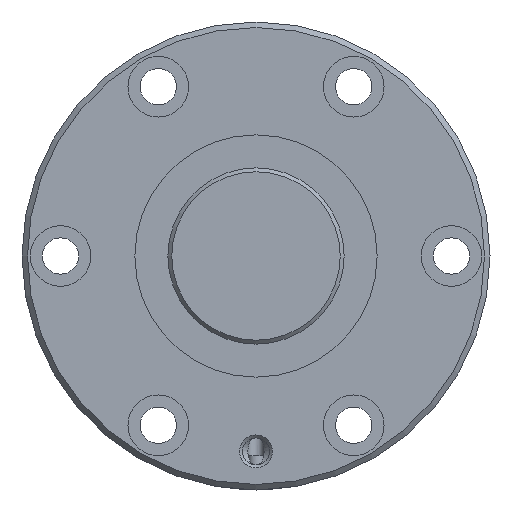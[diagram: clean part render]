
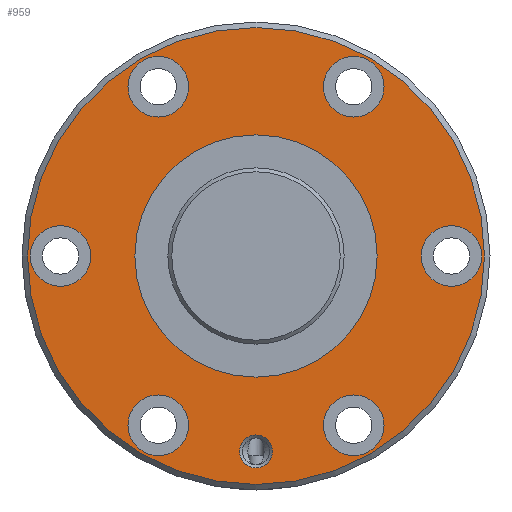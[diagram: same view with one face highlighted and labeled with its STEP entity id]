
A CAD part, left-side view. The second image highlights one B-rep face of the part: STEP entity #959.
In plain terms, the highlighted planar face has unit normal (-1, 0, 0).
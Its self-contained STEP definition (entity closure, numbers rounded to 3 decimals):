
#170=ORIENTED_EDGE('',*,*,#389,.T.);
#171=ORIENTED_EDGE('',*,*,#390,.T.);
#172=ORIENTED_EDGE('',*,*,#391,.T.);
#173=ORIENTED_EDGE('',*,*,#392,.T.);
#174=ORIENTED_EDGE('',*,*,#393,.T.);
#175=ORIENTED_EDGE('',*,*,#394,.T.);
#176=ORIENTED_EDGE('',*,*,#395,.T.);
#177=ORIENTED_EDGE('',*,*,#396,.T.);
#178=ORIENTED_EDGE('',*,*,#388,.F.);
#388=EDGE_CURVE('',#501,#501,#589,.T.);
#389=EDGE_CURVE('',#502,#502,#590,.T.);
#390=EDGE_CURVE('',#503,#503,#591,.F.);
#391=EDGE_CURVE('',#504,#504,#592,.T.);
#392=EDGE_CURVE('',#505,#505,#593,.T.);
#393=EDGE_CURVE('',#506,#506,#594,.T.);
#394=EDGE_CURVE('',#507,#507,#595,.T.);
#395=EDGE_CURVE('',#508,#508,#596,.T.);
#396=EDGE_CURVE('',#509,#509,#597,.T.);
#501=VERTEX_POINT('',#1592);
#502=VERTEX_POINT('',#1595);
#503=VERTEX_POINT('',#1597);
#504=VERTEX_POINT('',#1599);
#505=VERTEX_POINT('',#1601);
#506=VERTEX_POINT('',#1603);
#507=VERTEX_POINT('',#1605);
#508=VERTEX_POINT('',#1607);
#509=VERTEX_POINT('',#1609);
#589=CIRCLE('',#1066,41.5);
#590=CIRCLE('',#1068,22.);
#591=CIRCLE('',#1069,5.5);
#592=CIRCLE('',#1070,3.);
#593=CIRCLE('',#1071,5.5);
#594=CIRCLE('',#1072,5.5);
#595=CIRCLE('',#1073,5.5);
#596=CIRCLE('',#1074,5.5);
#597=CIRCLE('',#1075,5.5);
#670=EDGE_LOOP('',(#170));
#671=EDGE_LOOP('',(#171));
#672=EDGE_LOOP('',(#172));
#673=EDGE_LOOP('',(#173));
#674=EDGE_LOOP('',(#174));
#675=EDGE_LOOP('',(#175));
#676=EDGE_LOOP('',(#176));
#677=EDGE_LOOP('',(#177));
#678=EDGE_LOOP('',(#178));
#806=FACE_BOUND('',#670,.T.);
#807=FACE_BOUND('',#671,.T.);
#808=FACE_BOUND('',#672,.T.);
#809=FACE_BOUND('',#673,.T.);
#810=FACE_BOUND('',#674,.T.);
#811=FACE_BOUND('',#675,.T.);
#812=FACE_BOUND('',#676,.T.);
#813=FACE_BOUND('',#677,.T.);
#814=FACE_BOUND('',#678,.T.);
#924=PLANE('',#1067);
#959=ADVANCED_FACE('',(#806,#807,#808,#809,#810,#811,#812,#813,#814),#924,
 .T.);
#1066=AXIS2_PLACEMENT_3D('',#1591,#1234,#1235);
#1067=AXIS2_PLACEMENT_3D('',#1593,#1236,#1237);
#1068=AXIS2_PLACEMENT_3D('',#1594,#1238,#1239);
#1069=AXIS2_PLACEMENT_3D('',#1596,#1240,#1241);
#1070=AXIS2_PLACEMENT_3D('',#1598,#1242,#1243);
#1071=AXIS2_PLACEMENT_3D('',#1600,#1244,#1245);
#1072=AXIS2_PLACEMENT_3D('',#1602,#1246,#1247);
#1073=AXIS2_PLACEMENT_3D('',#1604,#1248,#1249);
#1074=AXIS2_PLACEMENT_3D('',#1606,#1250,#1251);
#1075=AXIS2_PLACEMENT_3D('',#1608,#1252,#1253);
#1234=DIRECTION('',(1.,0.,0.));
#1235=DIRECTION('',(0.,0.,-1.));
#1236=DIRECTION('',(-1.,0.,0.));
#1237=DIRECTION('',(0.,0.,1.));
#1238=DIRECTION('',(1.,0.,0.));
#1239=DIRECTION('',(0.,0.,-1.));
#1240=DIRECTION('',(-1.,0.,0.));
#1241=DIRECTION('',(0.,0.,1.));
#1242=DIRECTION('',(1.,0.,0.));
#1243=DIRECTION('',(0.,0.,-1.));
#1244=DIRECTION('',(1.,0.,0.));
#1245=DIRECTION('',(0.,0.,-1.));
#1246=DIRECTION('',(1.,0.,0.));
#1247=DIRECTION('',(0.,0.,-1.));
#1248=DIRECTION('',(1.,0.,0.));
#1249=DIRECTION('',(0.,0.,-1.));
#1250=DIRECTION('',(1.,0.,0.));
#1251=DIRECTION('',(0.,0.,-1.));
#1252=DIRECTION('',(1.,0.,0.));
#1253=DIRECTION('',(0.,0.,-1.));
#1591=CARTESIAN_POINT('',(0.,0.,0.));
#1592=CARTESIAN_POINT('',(0.,0.,-41.5));
#1593=CARTESIAN_POINT('',(0.,41.5,0.));
#1594=CARTESIAN_POINT('',(0.,0.,0.));
#1595=CARTESIAN_POINT('',(0.,0.,-22.));
#1596=CARTESIAN_POINT('',(0.,35.5,0.));
#1597=CARTESIAN_POINT('',(0.,35.5,5.5));
#1598=CARTESIAN_POINT('',(0.,0.,-35.5));
#1599=CARTESIAN_POINT('',(0.,0.,-38.5));
#1600=CARTESIAN_POINT('',(0.,-35.5,0.));
#1601=CARTESIAN_POINT('',(0.,-35.5,-5.5));
#1602=CARTESIAN_POINT('',(0.,17.75,30.744));
#1603=CARTESIAN_POINT('',(0.,17.75,25.244));
#1604=CARTESIAN_POINT('',(0.,-17.75,-30.744));
#1605=CARTESIAN_POINT('',(0.,-17.75,-36.244));
#1606=CARTESIAN_POINT('',(0.,-17.75,30.744));
#1607=CARTESIAN_POINT('',(0.,-17.75,25.244));
#1608=CARTESIAN_POINT('',(0.,17.75,-30.744));
#1609=CARTESIAN_POINT('',(0.,17.75,-36.244));
